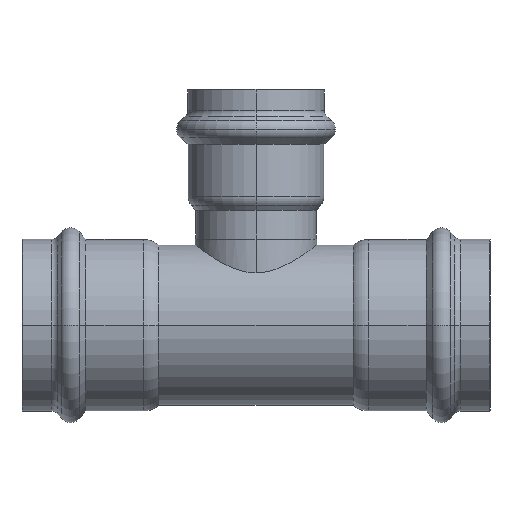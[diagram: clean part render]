
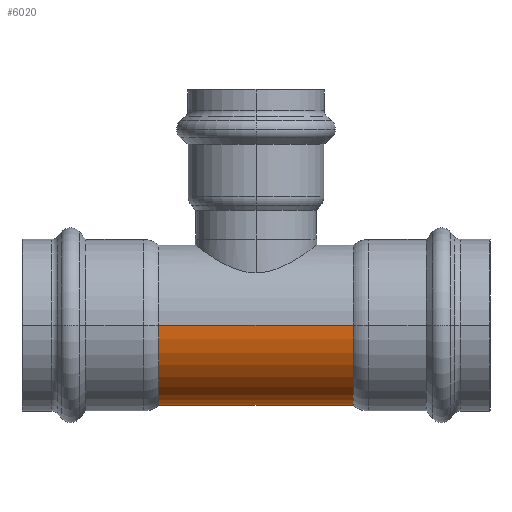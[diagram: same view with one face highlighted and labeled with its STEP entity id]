
A CAD part, left-side view. The second image highlights one B-rep face of the part: STEP entity #6020.
In plain terms, the highlighted cylindrical face has radius 27 mm (diameter 54 mm), a partial arc.
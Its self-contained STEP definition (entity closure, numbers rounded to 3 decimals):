
#1020=CARTESIAN_POINT('',(31.006,4.162,0.));
#1030=DIRECTION('',(0.,1.,0.));
#1040=DIRECTION('',(1.,0.,0.));
#1050=AXIS2_PLACEMENT_3D('',#1020,#1030,#1040);
#1060=CYLINDRICAL_SURFACE('',#1050,27.);
#5520=CARTESIAN_POINT('',(58.006,36.962,0.));
#5530=VERTEX_POINT('',#5520);
#5620=CARTESIAN_POINT('',(4.006,36.962,0.));
#5630=VERTEX_POINT('',#5620);
#5660=CARTESIAN_POINT('',(31.006,36.962,0.));
#5670=DIRECTION('',(0.,1.,0.));
#5680=DIRECTION('',(-1.,0.,0.));
#5690=AXIS2_PLACEMENT_3D('',#5660,#5670,#5680);
#5700=CIRCLE('',#5690,27.);
#5710=EDGE_CURVE('',#5530,#5630,#5700,.T.);
#5760=CARTESIAN_POINT('',(58.006,4.162,0.));
#5770=DIRECTION('',(0.,1.,0.));
#5780=VECTOR('',#5770,1.);
#5790=LINE('',#5760,#5780);
#5800=CARTESIAN_POINT('',(58.006,-28.638,0.));
#5810=VERTEX_POINT('',#5800);
#5820=EDGE_CURVE('',#5810,#5530,#5790,.T.);
#5830=ORIENTED_EDGE('',*,*,#5820,.F.);
#5840=ORIENTED_EDGE('',*,*,#5710,.F.);
#5850=CARTESIAN_POINT('',(4.006,4.162,
0.));
#5860=DIRECTION('',(0.,1.,0.));
#5870=VECTOR('',#5860,1.);
#5880=LINE('',#5850,#5870);
#5890=CARTESIAN_POINT('',(4.006,-28.638,0.));
#5900=VERTEX_POINT('',#5890);
#5910=EDGE_CURVE('',#5900,#5630,#5880,.T.);
#5920=ORIENTED_EDGE('',*,*,#5910,.T.);
#5930=CARTESIAN_POINT('',(31.006,-28.638,0.));
#5940=DIRECTION('',(0.,1.,0.));
#5950=DIRECTION('',(-1.,0.,0.));
#5960=AXIS2_PLACEMENT_3D('',#5930,#5940,#5950);
#5970=CIRCLE('',#5960,27.);
#5980=EDGE_CURVE('',#5810,#5900,#5970,.T.);
#5990=ORIENTED_EDGE('',*,*,#5980,.T.);
#6000=EDGE_LOOP('',(#5990,#5920,#5840,#5830));
#6010=FACE_OUTER_BOUND('',#6000,.T.);
#6020=ADVANCED_FACE('',(#6010),#1060,.T.);
